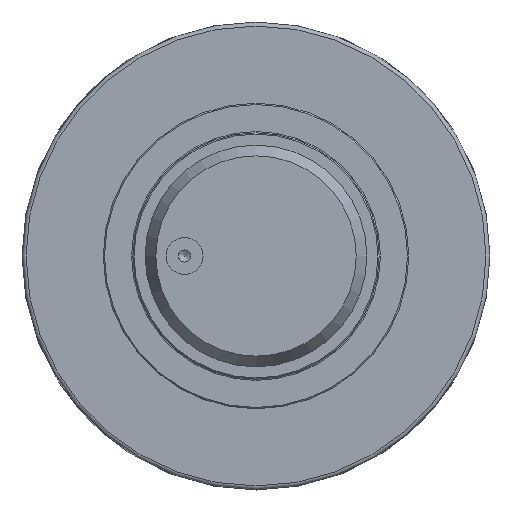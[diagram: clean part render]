
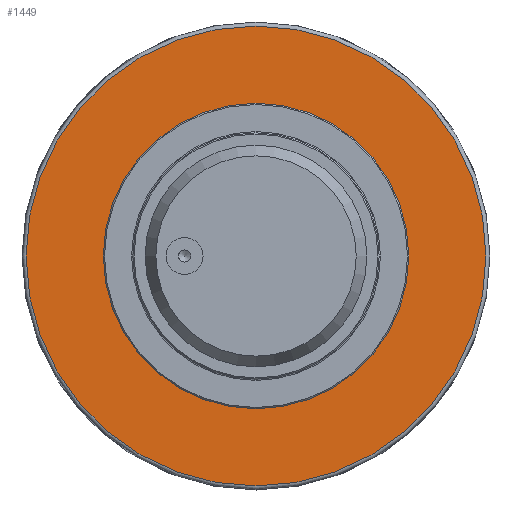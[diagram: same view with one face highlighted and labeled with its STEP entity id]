
A CAD part, left-side view. The second image highlights one B-rep face of the part: STEP entity #1449.
In plain terms, the highlighted planar face has unit normal (-1, 0, 0).
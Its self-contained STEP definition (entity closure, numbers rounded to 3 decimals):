
#51=FACE_BOUND('',#294,.T.);
#81=CIRCLE('',#1577,93.362);
#82=CIRCLE('',#1578,93.362);
#83=CIRCLE('',#1579,61.);
#197=FACE_OUTER_BOUND('',#293,.T.);
#293=EDGE_LOOP('',(#1214,#1215));
#294=EDGE_LOOP('',(#1216));
#678=VERTEX_POINT('',#2439);
#679=VERTEX_POINT('',#2440);
#680=VERTEX_POINT('',#2443);
#866=EDGE_CURVE('',#678,#679,#81,.T.);
#867=EDGE_CURVE('',#679,#678,#82,.T.);
#868=EDGE_CURVE('',#680,#680,#83,.T.);
#1214=ORIENTED_EDGE('',*,*,#866,.F.);
#1215=ORIENTED_EDGE('',*,*,#867,.F.);
#1216=ORIENTED_EDGE('',*,*,#868,.F.);
#1383=PLANE('',#1576);
#1449=ADVANCED_FACE('',(#197,#51),#1383,.T.);
#1576=AXIS2_PLACEMENT_3D('',#2438,#1928,#1929);
#1577=AXIS2_PLACEMENT_3D('',#2441,#1930,#1931);
#1578=AXIS2_PLACEMENT_3D('',#2442,#1932,#1933);
#1579=AXIS2_PLACEMENT_3D('',#2444,#1934,#1935);
#1928=DIRECTION('center_axis',(-1.,0.,0.));
#1929=DIRECTION('ref_axis',(0.,-1.,0.));
#1930=DIRECTION('center_axis',(1.,0.,0.));
#1931=DIRECTION('ref_axis',(0.,0.,
-1.));
#1932=DIRECTION('center_axis',(1.,0.,0.));
#1933=DIRECTION('ref_axis',(0.,0.,
-1.));
#1934=DIRECTION('center_axis',(-1.,0.,0.));
#1935=DIRECTION('ref_axis',(0.,-1.,0.));
#2438=CARTESIAN_POINT('Origin',(-9.962,1.215,81.095));
#2439=CARTESIAN_POINT('',(-9.962,1.215,93.362));
#2440=CARTESIAN_POINT('',(-9.962,-92.147,0.));
#2441=CARTESIAN_POINT('Origin',(-9.962,1.215,0.));
#2442=CARTESIAN_POINT('Origin',(-9.962,1.215,0.));
#2443=CARTESIAN_POINT('',(-9.962,62.215,0.));
#2444=CARTESIAN_POINT('Origin',(-9.962,1.215,0.));
